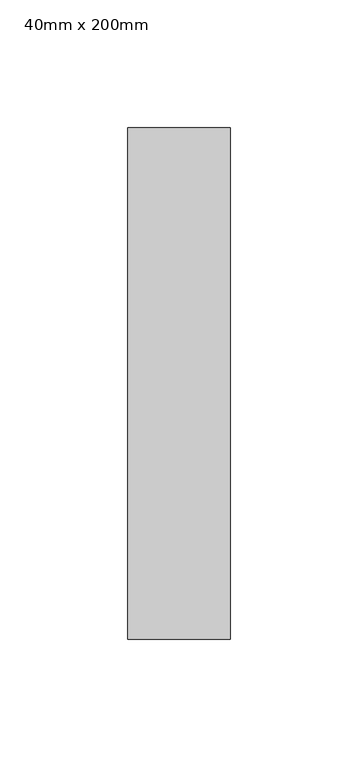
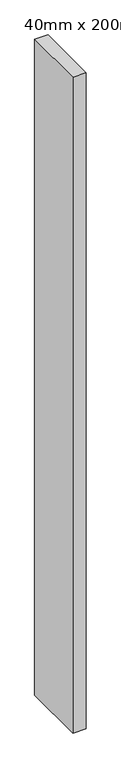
"""IFC4 building model written with IfcOpenShell, lengths in millimetres: column geometry, Poteau - Lamellé-collé - Pin du sud : 40mm x 200mm."""

import ifcopenshell
import ifcopenshell.guid

model = None  # the IFC model being written
_history = None  # IfcOwnerHistory: only IFC2X3 demands one
_inside = {}  # id of a spatial element -> (the spatial element, [elements in it])
_under = {}  # id of a project, library or spatial element -> (it, [spatial elements below it])
_declared = {}  # id of a project -> (the project, [libraries it declares])
_typed = {}  # id of a type object -> (the type object, [elements of that type])
_made_of = {}  # id of a material, layer set ... -> (it, [elements and type objects made of it])


def new_model(schema):
    """Start an empty IFC model of exactly this schema.

    Asked for "IFC4X3", IfcOpenShell would pick the latest addendum, in which some entities
    have other attributes; the version numbers below select the first issue.
    IFC2X3 requires an IfcOwnerHistory on every rooted entity: one is made here for all.
    """
    global model, _history
    if schema == "IFC4X3":
        model = ifcopenshell.file(schema_version=(4, 3, 0, 0))
    else:
        model = ifcopenshell.file(schema=schema)
    _inside.clear()
    _under.clear()
    _declared.clear()
    _typed.clear()
    _made_of.clear()
    _history = None
    if model.schema == "IFC2X3":
        org = make("IfcOrganization", Name="unknown")
        user = make(
            "IfcPersonAndOrganization",
            ThePerson=make("IfcPerson", FamilyName="unknown"),
            TheOrganization=org,
        )
        app = make(
            "IfcApplication",
            ApplicationDeveloper=org,
            Version="unknown",
            ApplicationFullName="unknown",
            ApplicationIdentifier="unknown",
        )
        _history = make(
            "IfcOwnerHistory",
            OwningUser=user,
            OwningApplication=app,
            ChangeAction="ADDED",
            CreationDate=0,
        )
    return model


def make(cls, **values):
    """One entity of the class cls with the attributes given. An attribute that is None is left unset."""
    return model.create_entity(
        cls, **{name: value for name, value in values.items() if value is not None}
    )


def rooted(cls, **values):
    """An entity with a GlobalId (a new one), such as an element, a storey or a relation."""
    return make(cls, GlobalId=ifcopenshell.guid.new(), OwnerHistory=_history, **values)


def si_unit(unit_type, name, prefix=None):
    """IfcSIUnit, for example si_unit("LENGTHUNIT", "METRE", prefix="MILLI")."""
    return make("IfcSIUnit", UnitType=unit_type, Prefix=prefix, Name=name)


def assignment(units):
    """IfcUnitAssignment: the units of a project."""
    return None if units is None else make("IfcUnitAssignment", Units=units)


def point(xyz):
    """IfcCartesianPoint."""
    return None if xyz is None else make("IfcCartesianPoint", Coordinates=xyz)


def direction(xyz):
    """IfcDirection."""
    return None if xyz is None else make("IfcDirection", DirectionRatios=xyz)


def frame(location, z_axis=None, x_axis=None):
    """IfcAxis2Placement3D, a coordinate frame: its origin and axes. An axis left out is left unset."""
    return make(
        "IfcAxis2Placement3D",
        Location=point(location),
        Axis=direction(z_axis),
        RefDirection=direction(x_axis),
    )


def origin():
    """The frame at (0, 0, 0) with its axes left unset."""
    return frame((0.0, 0.0, 0.0))


def place(relative_to, where):
    """IfcLocalPlacement: puts the frame where relative to a parent placement (None: the world)."""
    return make(
        "IfcLocalPlacement", PlacementRelTo=relative_to, RelativePlacement=where
    )


def context(
    kind, dimensions, precision=None, world=None, true_north=None, identifier=None
):
    """IfcGeometricRepresentationContext, for example the 3D "Model" context."""
    return make(
        "IfcGeometricRepresentationContext",
        ContextIdentifier=identifier,
        ContextType=kind,
        CoordinateSpaceDimension=dimensions,
        Precision=precision,
        WorldCoordinateSystem=world,
        TrueNorth=true_north,
    )


def project(units=None, contexts=None):
    """IfcProject with its units and contexts."""
    return rooted(
        "IfcProject",
        Name="project",
        RepresentationContexts=contexts,
        UnitsInContext=assignment(units),
    )


def spatial(cls, under=None, at=None, **own):
    """A site, building, storey or space (cls), placed at a placement, below another one or the project."""
    s = rooted(cls, ObjectPlacement=at, **own)
    if under is not None:
        _under.setdefault(under.id(), (under, []))[1].append(s)
    return s


def polyline(points):
    """IfcPolyline through the points."""
    return make("IfcPolyline", Points=[point(p) for p in points])


def outline(outer, holes=None, kind="AREA"):
    """IfcArbitraryClosedProfileDef: a profile drawn as a closed curve; with holes, ...WithVoids."""
    if holes is None:
        return make("IfcArbitraryClosedProfileDef", ProfileType=kind, OuterCurve=outer)
    return make(
        "IfcArbitraryProfileDefWithVoids",
        ProfileType=kind,
        OuterCurve=outer,
        InnerCurves=holes,
    )


def extrude(swept, where, along, depth):
    """IfcExtrudedAreaSolid: the profile swept, set in the frame where, extruded along a direction by depth."""
    return make(
        "IfcExtrudedAreaSolid",
        SweptArea=swept,
        Position=where,
        ExtrudedDirection=direction(along),
        Depth=depth,
    )


def shape(context_of_items, identifier, shape_type, items):
    """IfcShapeRepresentation: the items that make up one representation, for example the "Body"."""
    return make(
        "IfcShapeRepresentation",
        ContextOfItems=context_of_items,
        RepresentationIdentifier=identifier,
        RepresentationType=shape_type,
        Items=items,
    )


def source(mapping_origin, context_of_items, identifier, shape_type, items):
    """IfcRepresentationMap: a shape defined once, which mapped items show again and again."""
    return make(
        "IfcRepresentationMap",
        MappingOrigin=mapping_origin,
        MappedRepresentation=shape(context_of_items, identifier, shape_type, items),
    )


def transform(
    local_origin,
    x_axis=None,
    y_axis=None,
    z_axis=None,
    scale=None,
    scale2=None,
    scale3=None,
    uniform=True,
):
    """IfcCartesianTransformationOperator3D, or its non-uniform kind. x_axis, y_axis, z_axis: its Axis1, 2, 3."""
    if uniform:
        return make(
            "IfcCartesianTransformationOperator3D",
            Axis1=direction(x_axis),
            Axis2=direction(y_axis),
            LocalOrigin=point(local_origin),
            Scale=scale,
            Axis3=direction(z_axis),
        )
    return make(
        "IfcCartesianTransformationOperator3DnonUniform",
        Axis1=direction(x_axis),
        Axis2=direction(y_axis),
        LocalOrigin=point(local_origin),
        Scale=scale,
        Axis3=direction(z_axis),
        Scale2=scale2,
        Scale3=scale3,
    )


def mapped(mapping_source, mapping_target):
    """IfcMappedItem: shows the shape of a source again, moved by a transform."""
    return make(
        "IfcMappedItem", MappingSource=mapping_source, MappingTarget=mapping_target
    )


def made_of(thing, what):
    """Note that an element or type object is made of a material, layer set ...; save() writes the relation."""
    if what is not None:
        _made_of.setdefault(what.id(), (what, []))[1].append(thing)
    return thing


def element(
    cls,
    number,
    at=None,
    inside=None,
    cuts=None,
    type_object=None,
    material=None,
    context=None,
    identifier="Body",
    shape_type=None,
    held_by="IfcProductDefinitionShape",
    body=None,
    shapes=None,
    **own,
):
    """One element of the class cls, such as IfcWall. Its Tag is "e" and its number.

    at: its placement. inside: the storey or other place that contains it. cuts: it is an
    opening in that element (IfcRelVoidsElement). A single representation is given by context,
    identifier, shape_type and body (its items); several are given by shapes. held_by: the class
    of the entity that holds the representations. save() writes the other relations.
    """
    e = rooted(cls, Tag="e%d" % number, ObjectPlacement=at, **own)
    if body is not None:
        shapes = [shape(context, identifier, shape_type, body)]
    if shapes is not None:
        e.Representation = make(held_by, Representations=shapes)
    if inside is not None:
        _inside.setdefault(inside.id(), (inside, []))[1].append(e)
    if cuts is not None:
        rooted(
            "IfcRelVoidsElement", RelatingBuildingElement=cuts, RelatedOpeningElement=e
        )
    if type_object is not None:
        _typed.setdefault(type_object.id(), (type_object, []))[1].append(e)
    return made_of(e, material)


def aggregate(whole, parts):
    """IfcRelAggregates: a whole, such as a stair, and the parts it consists of."""
    return rooted("IfcRelAggregates", RelatingObject=whole, RelatedObjects=parts)


def save(model, path):
    """Write the relations noted so far, then the file.

    IfcRelAggregates (storeys below a building ...), IfcRelContainedInSpatialStructure (elements
    in a storey), IfcRelDefinesByType, IfcRelAssociatesMaterial and IfcRelDeclares: one each for
    every whole, place, type object, material and project.
    """
    for whole, parts in _under.values():
        aggregate(whole, parts)
    for where, things in _inside.values():
        rooted(
            "IfcRelContainedInSpatialStructure",
            RelatedElements=things,
            RelatingStructure=where,
        )
    for kind, things in _typed.values():
        rooted("IfcRelDefinesByType", RelatedObjects=things, RelatingType=kind)
    for what, things in _made_of.values():
        rooted("IfcRelAssociatesMaterial", RelatedObjects=things, RelatingMaterial=what)
    for by, libraries in _declared.values():
        rooted("IfcRelDeclares", RelatingContext=by, RelatedDefinitions=libraries)
    model.write(path)


def column_40mm_x_200mm_501ef31c(model_context):
    return source(origin(), model_context, "Body", "SweptSolid", [
        extrude(outline(polyline([(20.0, 100.0), (20.0, -100.0), (-20.0, -100.0), (-20.0, 100.0), (20.0, 100.0)])), frame((0.0, 0.0, 4150.0), z_axis=(0.0, 0.0, 1.0), x_axis=(1.0, 0.0, 0.0)), (0.0, 0.0, 1.0), 2100.0),
    ])


if __name__ == "__main__":
    model = new_model("IFC4")
    model_context = context("Model", 3, world=origin())
    ifc_project = project(units=[si_unit("LENGTHUNIT", "METRE", prefix="MILLI")], contexts=[model_context])
    site = spatial("IfcSite", under=ifc_project)
    building = spatial("IfcBuilding", under=site)
    placement = place(None, origin())
    column_40mm_x_200mm_shape = column_40mm_x_200mm_501ef31c(model_context)
    element("IfcColumn", 1, ObjectType="Poteau - Lamellé-collé - Pin du sud : 40mm x 200mm", at=placement, inside=building, context=model_context, shape_type="MappedRepresentation", body=[
        mapped(column_40mm_x_200mm_shape, transform((0.0, 0.0, 0.0), x_axis=(1.0, 0.0, 0.0), y_axis=(0.0, 1.0, 0.0), z_axis=(0.0, 0.0, 1.0))),
    ])
    save(model, "model.ifc")
